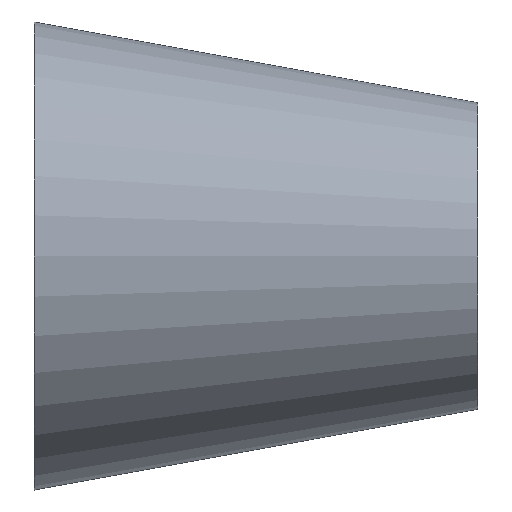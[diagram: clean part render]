
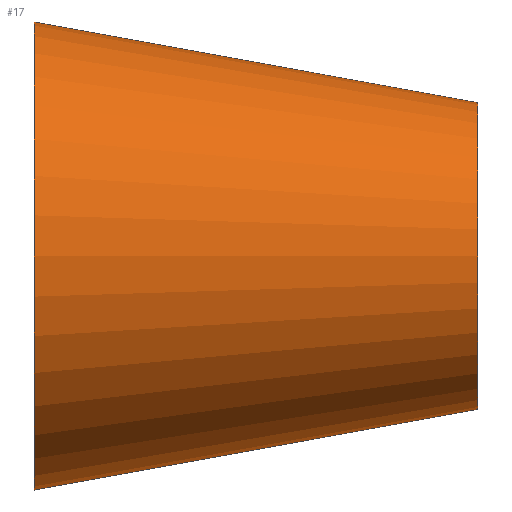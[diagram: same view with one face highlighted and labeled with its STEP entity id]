
A CAD part, front view. The second image highlights one B-rep face of the part: STEP entity #17.
In plain terms, the highlighted free-form (B-spline) face has degree [14, 1] with [15, 2] control points.
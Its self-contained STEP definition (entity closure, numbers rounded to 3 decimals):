
#17 = ADVANCED_FACE('',(#18),#31,.T.);
#18 = FACE_BOUND('',#19,.T.);
#19 = EDGE_LOOP('',(#20,#80,#102,#129));
#20 = ORIENTED_EDGE('',*,*,#21,.T.);
#21 = EDGE_CURVE('',#22,#22,#24,.T.);
#22 = VERTEX_POINT('',#23);
#23 = CARTESIAN_POINT('',(0.,14.5,0.));
#24 = SURFACE_CURVE('',#25,(#30,#68),.PCURVE_S1.);
#25 = CIRCLE('',#26,14.5);
#26 = AXIS2_PLACEMENT_3D('',#27,#28,#29);
#27 = CARTESIAN_POINT('',(0.,0.,0.));
#28 = DIRECTION('',(1.,0.,0.));
#29 = DIRECTION('',(0.,1.,0.));
#30 = PCURVE('',#31,#62);
#31 = B_SPLINE_SURFACE_WITH_KNOTS('',14,1,(
    (#32,#33)
    ,(#34,#35)
    ,(#36,#37)
    ,(#38,#39)
    ,(#40,#41)
    ,(#42,#43)
    ,(#44,#45)
    ,(#46,#47)
    ,(#48,#49)
    ,(#50,#51)
    ,(#52,#53)
    ,(#54,#55)
    ,(#56,#57)
    ,(#58,#59)
    ,(#60,#61
    )),.UNSPECIFIED.,.T.,.F.,.F.,(15,15),(2,2),(0.,6.283),(0.,1.
    ),.PIECEWISE_BEZIER_KNOTS.);
#32 = CARTESIAN_POINT('',(0.,14.5,0.));
#33 = CARTESIAN_POINT('',(27.5,4.5,0.));
#34 = CARTESIAN_POINT('',(0.,14.5,6.508));
#35 = CARTESIAN_POINT('',(27.5,4.5,4.264)
  );
#36 = CARTESIAN_POINT('',(0.,11.355,13.015));
#37 = CARTESIAN_POINT('',(27.5,2.439,8.527)
  );
#38 = CARTESIAN_POINT('',(0.,5.064,17.876));
#39 = CARTESIAN_POINT('',(27.5,-1.682,
    11.712));
#40 = CARTESIAN_POINT('',(0.,-3.431,19.443));
#41 = CARTESIAN_POINT('',(27.5,-7.248,
    12.739));
#42 = CARTESIAN_POINT('',(0.,-12.249,16.66));
#43 = CARTESIAN_POINT('',(27.5,-13.025,
    10.915));
#44 = CARTESIAN_POINT('',(0.,-18.981,9.655));
#45 = CARTESIAN_POINT('',(27.5,-17.436,6.326
    ));
#46 = CARTESIAN_POINT('',(0.,-21.516,0.));
#47 = CARTESIAN_POINT('',(27.5,-19.096,
    0.));
#48 = CARTESIAN_POINT('',(0.,-18.981,-9.655));
#49 = CARTESIAN_POINT('',(27.5,-17.436,
    -6.326));
#50 = CARTESIAN_POINT('',(0.,-12.249,-16.66));
#51 = CARTESIAN_POINT('',(27.5,-13.025,-10.915
    ));
#52 = CARTESIAN_POINT('',(0.,-3.431,-19.443));
#53 = CARTESIAN_POINT('',(27.5,-7.248,-12.739
    ));
#54 = CARTESIAN_POINT('',(0.,5.064,-17.876));
#55 = CARTESIAN_POINT('',(27.5,-1.682,
    -11.712));
#56 = CARTESIAN_POINT('',(0.,11.355,-13.015));
#57 = CARTESIAN_POINT('',(27.5,2.439,-8.527
    ));
#58 = CARTESIAN_POINT('',(0.,14.5,-6.508));
#59 = CARTESIAN_POINT('',(27.5,4.5,-4.264)
  );
#60 = CARTESIAN_POINT('',(0.,14.5,0.));
#61 = CARTESIAN_POINT('',(27.5,4.5,0.));
#62 = DEFINITIONAL_REPRESENTATION('',(#63),#67);
#63 = LINE('',#64,#65);
#64 = CARTESIAN_POINT('',(0.,0.));
#65 = VECTOR('',#66,1.);
#66 = DIRECTION('',(1.,0.));
#67 = ( GEOMETRIC_REPRESENTATION_CONTEXT(2) 
PARAMETRIC_REPRESENTATION_CONTEXT() REPRESENTATION_CONTEXT('2D SPACE',''
  ) );
#68 = PCURVE('',#69,#74);
#69 = PLANE('',#70);
#70 = AXIS2_PLACEMENT_3D('',#71,#72,#73);
#71 = CARTESIAN_POINT('',(0.,0.,0.));
#72 = DIRECTION('',(1.,0.,0.));
#73 = DIRECTION('',(0.,1.,0.));
#74 = DEFINITIONAL_REPRESENTATION('',(#75),#79);
#75 = CIRCLE('',#76,14.5);
#76 = AXIS2_PLACEMENT_2D('',#77,#78);
#77 = CARTESIAN_POINT('',(0.,0.));
#78 = DIRECTION('',(1.,0.));
#79 = ( GEOMETRIC_REPRESENTATION_CONTEXT(2) 
PARAMETRIC_REPRESENTATION_CONTEXT() REPRESENTATION_CONTEXT('2D SPACE',''
  ) );
#80 = ORIENTED_EDGE('',*,*,#81,.T.);
#81 = EDGE_CURVE('',#22,#82,#84,.T.);
#82 = VERTEX_POINT('',#83);
#83 = CARTESIAN_POINT('',(27.5,4.5,0.));
#84 = SEAM_CURVE('',#85,(#88,#95),.PCURVE_S1.);
#85 = B_SPLINE_CURVE_WITH_KNOTS('',1,(#86,#87),.UNSPECIFIED.,.F.,.F.,(2,
    2),(0.,1.),.PIECEWISE_BEZIER_KNOTS.);
#86 = CARTESIAN_POINT('',(0.,14.5,0.));
#87 = CARTESIAN_POINT('',(27.5,4.5,0.));
#88 = PCURVE('',#31,#89);
#89 = DEFINITIONAL_REPRESENTATION('',(#90),#94);
#90 = LINE('',#91,#92);
#91 = CARTESIAN_POINT('',(6.283,0.));
#92 = VECTOR('',#93,1.);
#93 = DIRECTION('',(0.,1.));
#94 = ( GEOMETRIC_REPRESENTATION_CONTEXT(2) 
PARAMETRIC_REPRESENTATION_CONTEXT() REPRESENTATION_CONTEXT('2D SPACE',''
  ) );
#95 = PCURVE('',#31,#96);
#96 = DEFINITIONAL_REPRESENTATION('',(#97),#101);
#97 = LINE('',#98,#99);
#98 = CARTESIAN_POINT('',(0.,0.));
#99 = VECTOR('',#100,1.);
#100 = DIRECTION('',(0.,1.));
#101 = ( GEOMETRIC_REPRESENTATION_CONTEXT(2) 
PARAMETRIC_REPRESENTATION_CONTEXT() REPRESENTATION_CONTEXT('2D SPACE',''
  ) );
#102 = ORIENTED_EDGE('',*,*,#103,.F.);
#103 = EDGE_CURVE('',#82,#82,#104,.T.);
#104 = SURFACE_CURVE('',#105,(#110,#117),.PCURVE_S1.);
#105 = CIRCLE('',#106,9.5);
#106 = AXIS2_PLACEMENT_3D('',#107,#108,#109);
#107 = CARTESIAN_POINT('',(27.5,-5.,0.));
#108 = DIRECTION('',(1.,0.,0.));
#109 = DIRECTION('',(0.,1.,0.));
#110 = PCURVE('',#31,#111);
#111 = DEFINITIONAL_REPRESENTATION('',(#112),#116);
#112 = LINE('',#113,#114);
#113 = CARTESIAN_POINT('',(0.,1.));
#114 = VECTOR('',#115,1.);
#115 = DIRECTION('',(1.,0.));
#116 = ( GEOMETRIC_REPRESENTATION_CONTEXT(2) 
PARAMETRIC_REPRESENTATION_CONTEXT() REPRESENTATION_CONTEXT('2D SPACE',''
  ) );
#117 = PCURVE('',#118,#123);
#118 = PLANE('',#119);
#119 = AXIS2_PLACEMENT_3D('',#120,#121,#122);
#120 = CARTESIAN_POINT('',(27.5,-5.,0.));
#121 = DIRECTION('',(1.,0.,0.));
#122 = DIRECTION('',(0.,1.,0.));
#123 = DEFINITIONAL_REPRESENTATION('',(#124),#128);
#124 = CIRCLE('',#125,9.5);
#125 = AXIS2_PLACEMENT_2D('',#126,#127);
#126 = CARTESIAN_POINT('',(0.,0.));
#127 = DIRECTION('',(1.,0.));
#128 = ( GEOMETRIC_REPRESENTATION_CONTEXT(2) 
PARAMETRIC_REPRESENTATION_CONTEXT() REPRESENTATION_CONTEXT('2D SPACE',''
  ) );
#129 = ORIENTED_EDGE('',*,*,#81,.F.);
